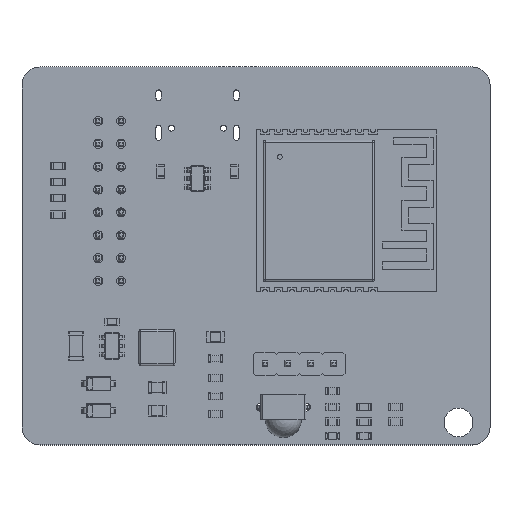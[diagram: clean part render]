
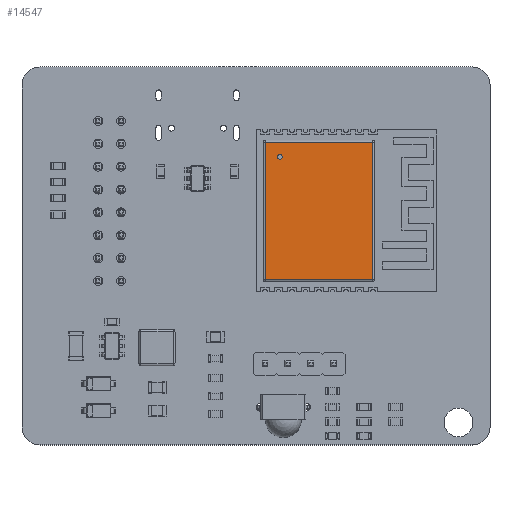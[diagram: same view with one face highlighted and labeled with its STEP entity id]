
A CAD part, top view. The second image highlights one B-rep face of the part: STEP entity #14547.
In plain terms, the highlighted planar face has unit normal (0, 0, 1).
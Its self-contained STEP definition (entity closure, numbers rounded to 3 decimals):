
#14371 = VERTEX_POINT('',#14372);
#14372 = CARTESIAN_POINT('',(-7.65,5.98,3.2));
#14379 = EDGE_CURVE('',#14371,#14380,#14382,.T.);
#14380 = VERTEX_POINT('',#14381);
#14381 = CARTESIAN_POINT('',(7.65,5.98,3.2));
#14382 = LINE('',#14383,#14384);
#14383 = CARTESIAN_POINT('',(-7.85,5.98,3.2));
#14384 = VECTOR('',#14385,1.);
#14385 = DIRECTION('',(1.,0.,0.));
#14547 = ADVANCED_FACE('',(#14548,#14573),#14584,.T.);
#14548 = FACE_BOUND('',#14549,.T.);
#14549 = EDGE_LOOP('',(#14550,#14558,#14559,#14567));
#14550 = ORIENTED_EDGE('',*,*,#14551,.F.);
#14551 = EDGE_CURVE('',#14380,#14552,#14554,.T.);
#14552 = VERTEX_POINT('',#14553);
#14553 = CARTESIAN_POINT('',(7.65,-5.99,3.2));
#14554 = LINE('',#14555,#14556);
#14555 = CARTESIAN_POINT('',(7.65,6.18,3.2));
#14556 = VECTOR('',#14557,1.);
#14557 = DIRECTION('',(0.,-1.,0.));
#14558 = ORIENTED_EDGE('',*,*,#14379,.F.);
#14559 = ORIENTED_EDGE('',*,*,#14560,.F.);
#14560 = EDGE_CURVE('',#14561,#14371,#14563,.T.);
#14561 = VERTEX_POINT('',#14562);
#14562 = CARTESIAN_POINT('',(-7.65,-5.99,3.2));
#14563 = LINE('',#14564,#14565);
#14564 = CARTESIAN_POINT('',(-7.65,-6.19,3.2));
#14565 = VECTOR('',#14566,1.);
#14566 = DIRECTION('',(0.,1.,0.));
#14567 = ORIENTED_EDGE('',*,*,#14568,.F.);
#14568 = EDGE_CURVE('',#14552,#14561,#14569,.T.);
#14569 = LINE('',#14570,#14571);
#14570 = CARTESIAN_POINT('',(7.85,-5.99,3.2));
#14571 = VECTOR('',#14572,1.);
#14572 = DIRECTION('',(-1.,0.,0.));
#14573 = FACE_BOUND('',#14574,.T.);
#14574 = EDGE_LOOP('',(#14575));
#14575 = ORIENTED_EDGE('',*,*,#14576,.F.);
#14576 = EDGE_CURVE('',#14577,#14577,#14579,.T.);
#14577 = VERTEX_POINT('',#14578);
#14578 = CARTESIAN_POINT('',(-5.75,-4.34,3.2));
#14579 = CIRCLE('',#14580,0.25);
#14580 = AXIS2_PLACEMENT_3D('',#14581,#14582,#14583);
#14581 = CARTESIAN_POINT('',(-6.,-4.34,3.2));
#14582 = DIRECTION('',(0.,0.,1.));
#14583 = DIRECTION('',(1.,0.,-0.));
#14584 = PLANE('',#14585);
#14585 = AXIS2_PLACEMENT_3D('',#14586,#14587,#14588);
#14586 = CARTESIAN_POINT('',(0.,-0.005,3.2));
#14587 = DIRECTION('',(0.,0.,1.));
#14588 = DIRECTION('',(1.,0.,-0.));
